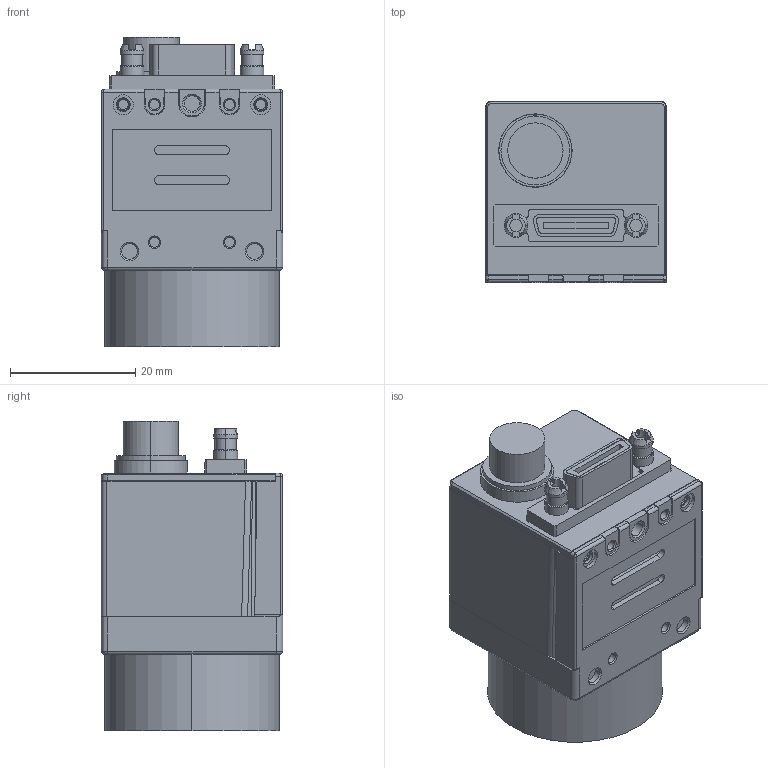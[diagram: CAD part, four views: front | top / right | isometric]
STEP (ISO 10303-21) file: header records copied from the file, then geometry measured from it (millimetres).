
FILE_DESCRIPTION((''),'2;1');
FILE_NAME('MC-D130C_ASM_ASM','2021-04-23T',('Dongwoo'),(''),'CREO PARAMETRIC BY PTC INC, 2016130','CREO PARAMETRIC BY PTC INC, 2016130','');
FILE_SCHEMA(('CONFIG_CONTROL_DESIGN'));
Length unit declared in the file: inch
Products named in the file (15): MCL-SONY-BACK-PCB_4_1; POCL-CONNECTOR-00_1_1; POCL-CONNECTOR-01_1_1; POCL-CONNECTOR_ASM_1_ASM_1_ASM; MCL-SONY-BACK-PCB-ASSY_ASM_2_AS_ASM; MCL-SONY-P0001_15_1; HR10A_7R_6P_2_1; MCL-BACK-PCB_ASM_2_ASM_1_ASM; MCL-BACK_ASM_7_ASM_1_ASM; MVU-00-08-00-00_1_1; MC-D130B_ASM_19_ASM_1_ASM; CH-MS-M2XL3-NI_2; MINICAM-P0025_13; MC-D130B_ASM_ASM_1_ASM; MC-D130C_ASM_ASM
Assembly tree (17 placements, depth 7):
  MC-D130C_ASM_ASM
    MC-D130B_ASM_ASM_1_ASM
      MC-D130B_ASM_19_ASM_1_ASM
        MCL-BACK_ASM_7_ASM_1_ASM
          MCL-SONY-BACK-PCB-ASSY_ASM_2_AS_ASM
            MCL-SONY-BACK-PCB_4_1
            POCL-CONNECTOR_ASM_1_ASM_1_ASM
              POCL-CONNECTOR-00_1_1
              POCL-CONNECTOR-01_1_1  x2
          MCL-SONY-P0001_15_1
          HR10A_7R_6P_2_1
          MCL-BACK-PCB_ASM_2_ASM_1_ASM
            POCL-CONNECTOR_ASM_1_ASM_1_ASM
              POCL-CONNECTOR-00_1_1
              POCL-CONNECTOR-01_1_1  x2
        MVU-00-08-00-00_1_1
      CH-MS-M2XL3-NI_2  x2
      MINICAM-P0025_13
Bounding box: 29 x 29 x 49.54 mm (x, y, z)
Volume: 25523.9 mm3; surface area: 20607.9 mm2
Topology: 13 solids, 38 shells, 1170 faces, 2959 edges, 1952 vertices
Faces by surface type: plane 545, cylinder 483, cone 120, bspline 18, torus 4
Entity records: 32789 total; most frequent: CARTESIAN_POINT 9957, DIRECTION 4829, ORIENTED_EDGE 4522, EDGE_CURVE 2307, AXIS2_PLACEMENT_3D 1789, VERTEX_POINT 1532, VECTOR 1251, LINE 1251
